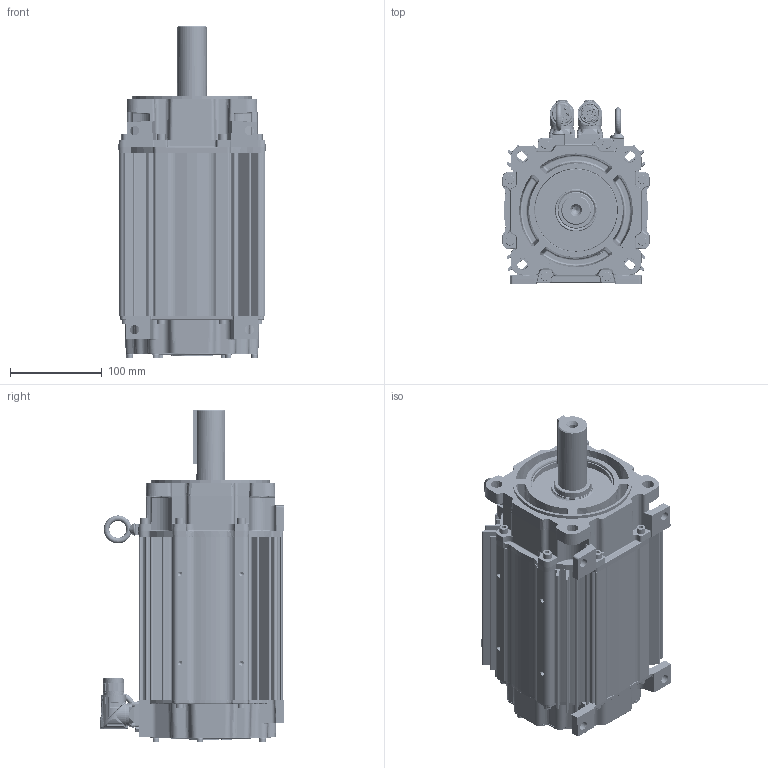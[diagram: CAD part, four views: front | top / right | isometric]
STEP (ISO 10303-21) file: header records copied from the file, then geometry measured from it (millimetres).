
FILE_DESCRIPTION((''),'2;1');
FILE_NAME('10001841014-S_ASM_7_1_2_3_4_A_1_ASM','2020-01-10T10:27:41',('VThimma'),('Rockwell Automation'),'CREO PARAMETRIC BY PTC INC, 2017380','CREO PARAMETRIC BY PTC INC, 2017380','');
FILE_SCHEMA(('CONFIG_CONTROL_DESIGN','SHAPE_APPEARANCE_LAYERS_GROUPS'));
Length unit declared in the file: inch
Products named in the file (33): 10001406948_1_1_2_3_4_1_1; 10001392731_AF0_1_1_2_3_4_1_1; 10001392729_AF3_1_1_2_3_4_1_1; 10001392735_ASM_1_1_2_3_4_ASM_2_ASM; 10001564232_1_1_2_3_4_1_1; CH25X125_1_1_2_3_4_1_1; 10001407104_ASM_1_1_2_3_4_ASM_2_ASM; 10001393622_2_1_2_3_4_1_1; 10001838374_ASM_1_1_2_3_4_ASM_2_ASM; 10001383815_AF59_1_1_2_3_4_1_1; 10001383705_AF59_1_1_2_3_4_1_1; 10001383836_ASM_1_1_2_3_4_ASM_2_ASM; 10001586879_1_1_2_3_4_1_1; 10000172464_1_1_2_3_4_1_1; 0002-5006_1_1_2_3_4_1_1; 10001609981_1_1_2_3_4_1_1; 10000014325-2_1_1_2_3_4_1_1; 10000014325-1_1_1_2_3_4_1_1_2_1; 10000014325-1_1_1_2_3_4_1_1_2_2; 10000014325-1_1_1_2_3_4_1_1_2_ASM; 10000014326-1_1_1_2_3_4_1_1; 10000014326-M23_ASM_1_1_2_3_4_1_ASM; 10000014328-M23_1_1_2_3_4_1_1; 10000014325-M23_ASM_1_1_2_3_4_1_ASM; 10000014325-2_1_1_1_2_3_4; 10000014331_1_1_2_3_4_1_1; 10000014332-460_1_1_2_3_4_1_1; 10000014330-460_ASM_1_1_2_3_4_1_ASM; 10001384051_1_1_2_3_4_1_1; 221404-Q12_1_1_2_3_4_1_1; 0019-1060_1_1_2_3_4_1_1; 0011-2066_1_1_2_3_4_1_1; 10001841014-S_ASM_7_1_2_3_4_A_1_ASM
Assembly tree (62 placements, depth 4):
  10001841014-S_ASM_7_1_2_3_4_A_1_ASM
    10001407104_ASM_1_1_2_3_4_ASM_2_ASM
      10001406948_1_1_2_3_4_1_1
      10001392735_ASM_1_1_2_3_4_ASM_2_ASM
        10001392731_AF0_1_1_2_3_4_1_1
        10001392729_AF3_1_1_2_3_4_1_1
      10001564232_1_1_2_3_4_1_1
      CH25X125_1_1_2_3_4_1_1  x8
    10001838374_ASM_1_1_2_3_4_ASM_2_ASM
      10001393622_2_1_2_3_4_1_1
    10001383836_ASM_1_1_2_3_4_ASM_2_ASM
      10001383815_AF59_1_1_2_3_4_1_1
      10001383705_AF59_1_1_2_3_4_1_1
    10001586879_1_1_2_3_4_1_1  x7
    10000172464_1_1_2_3_4_1_1  x9
    0002-5006_1_1_2_3_4_1_1  x2
    10001609981_1_1_2_3_4_1_1
    10000014325-M23_ASM_1_1_2_3_4_1_ASM
      10000014325-2_1_1_2_3_4_1_1
      10000014325-1_1_1_2_3_4_1_1_2_ASM
        10000014325-1_1_1_2_3_4_1_1_2_1
        10000014325-1_1_1_2_3_4_1_1_2_2
      10000014326-M23_ASM_1_1_2_3_4_1_ASM
        10000014326-1_1_1_2_3_4_1_1
      10000014328-M23_1_1_2_3_4_1_1  x4
    10000014330-460_ASM_1_1_2_3_4_1_ASM
      10000014325-2_1_1_1_2_3_4
      10000014331_1_1_2_3_4_1_1
      10000014332-460_1_1_2_3_4_1_1
    10001384051_1_1_2_3_4_1_1
    221404-Q12_1_1_2_3_4_1_1  x6
    0019-1060_1_1_2_3_4_1_1
    0011-2066_1_1_2_3_4_1_1
Bounding box: 160.35 x 200.35 x 361.7 mm (x, y, z)
Volume: 2166792.4 mm3; surface area: 718924.3 mm2
Topology: 54 solids, 61 shells, 7530 faces, 20518 edges, 13050 vertices
Faces by surface type: cylinder 2503, plane 1790, bspline 1446, torus 967, cone 694, sphere 125, extrusion 3, revolution 2
Entity records: 333293 total; most frequent: CARTESIAN_POINT 141355, ORIENTED_EDGE 33321, DIRECTION 27266, EDGE_CURVE 16669, AXIS2_PLACEMENT_3D 11109, VERTEX_POINT 10873, PRESENTATION_STYLE_ASSIGNMENT 9658, STYLED_ITEM 9658
